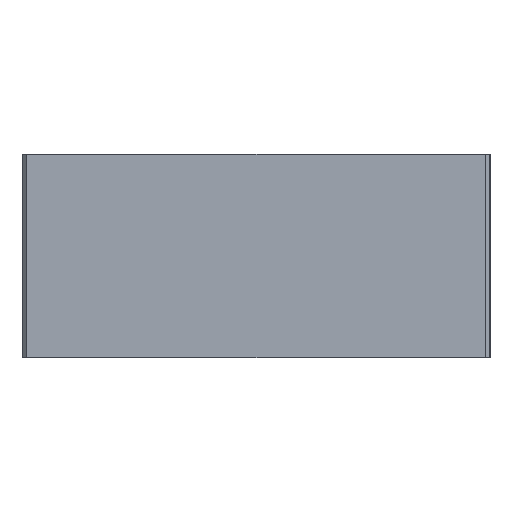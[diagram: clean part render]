
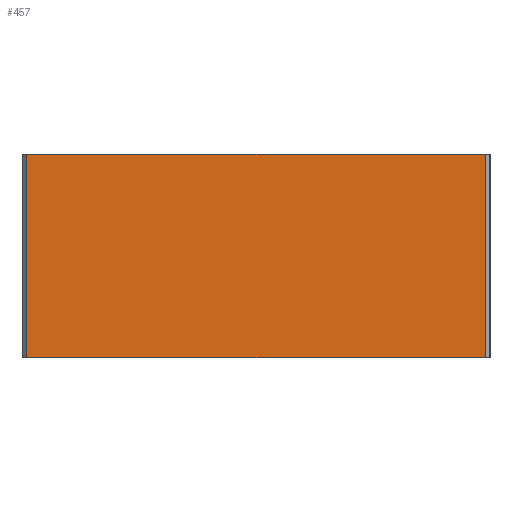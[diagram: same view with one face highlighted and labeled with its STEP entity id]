
A CAD part, left-side view. The second image highlights one B-rep face of the part: STEP entity #457.
In plain terms, the highlighted planar face has unit normal (-1, 0, 0).
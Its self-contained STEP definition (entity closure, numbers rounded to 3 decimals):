
#94 = VERTEX_POINT ( 'NONE', #787 ) ;
#135 = EDGE_CURVE ( 'NONE', #1109, #239, #895, .T. ) ;
#195 = LINE ( 'NONE', #827, #213 ) ;
#198 = LINE ( 'NONE', #523, #203 ) ;
#203 = VECTOR ( 'NONE', #833, 1000. ) ;
#213 = VECTOR ( 'NONE', #753, 1000. ) ;
#239 = VERTEX_POINT ( 'NONE', #500 ) ;
#285 = DIRECTION ( 'NONE',  ( 0., 0., -1. ) ) ;
#294 = AXIS2_PLACEMENT_3D ( 'NONE', #522, #329, #655 ) ;
#329 = DIRECTION ( 'NONE',  ( -1., 0., 0. ) ) ;
#342 = ORIENTED_EDGE ( 'NONE', *, *, #969, .T. ) ;
#344 = LINE ( 'NONE', #755, #347 ) ;
#347 = VECTOR ( 'NONE', #510, 1000. ) ;
#442 = VERTEX_POINT ( 'NONE', #652 ) ;
#457 = ADVANCED_FACE ( 'NONE', ( #595 ), #541, .T. ) ;
#500 = CARTESIAN_POINT ( 'NONE',  ( 0., -0.3, -13.5 ) ) ;
#509 = CARTESIAN_POINT ( 'NONE',  ( 0., -0.3, -6.75 ) ) ;
#510 = DIRECTION ( 'NONE',  ( 0., -1., 0. ) ) ;
#522 = CARTESIAN_POINT ( 'NONE',  ( 0., -30.7, -13.5 ) ) ;
#523 = CARTESIAN_POINT ( 'NONE',  ( 0., -15.5, -13.5 ) ) ;
#541 = PLANE ( 'NONE',  #294 ) ;
#558 = VECTOR ( 'NONE', #285, 1000. ) ;
#588 = CARTESIAN_POINT ( 'NONE',  ( 0., -0.3, 0. ) ) ;
#589 = EDGE_LOOP ( 'NONE', ( #1077, #632, #748, #342 ) ) ;
#595 = FACE_OUTER_BOUND ( 'NONE', #589, .T. ) ;
#632 = ORIENTED_EDGE ( 'NONE', *, *, #135, .T. ) ;
#652 = CARTESIAN_POINT ( 'NONE',  ( 0., -30.7, -13.5 ) ) ;
#655 = DIRECTION ( 'NONE',  ( 0., 0., 1. ) ) ;
#748 = ORIENTED_EDGE ( 'NONE', *, *, #937, .T. ) ;
#753 = DIRECTION ( 'NONE',  ( 0., 0., 1. ) ) ;
#755 = CARTESIAN_POINT ( 'NONE',  ( 0., -15.5, 0. ) ) ;
#787 = CARTESIAN_POINT ( 'NONE',  ( 0., -30.7, 0. ) ) ;
#827 = CARTESIAN_POINT ( 'NONE',  ( 0., -30.7, -6.75 ) ) ;
#833 = DIRECTION ( 'NONE',  ( 0., -1., 0. ) ) ;
#895 = LINE ( 'NONE', #509, #558 ) ;
#937 = EDGE_CURVE ( 'NONE', #239, #442, #198, .T. ) ;
#969 = EDGE_CURVE ( 'NONE', #442, #94, #195, .T. ) ;
#1077 = ORIENTED_EDGE ( 'NONE', *, *, #1191, .F. ) ;
#1109 = VERTEX_POINT ( 'NONE', #588 ) ;
#1191 = EDGE_CURVE ( 'NONE', #1109, #94, #344, .T. ) ;
